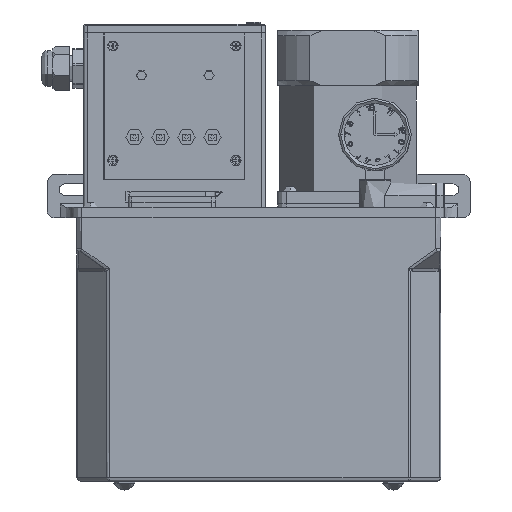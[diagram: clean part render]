
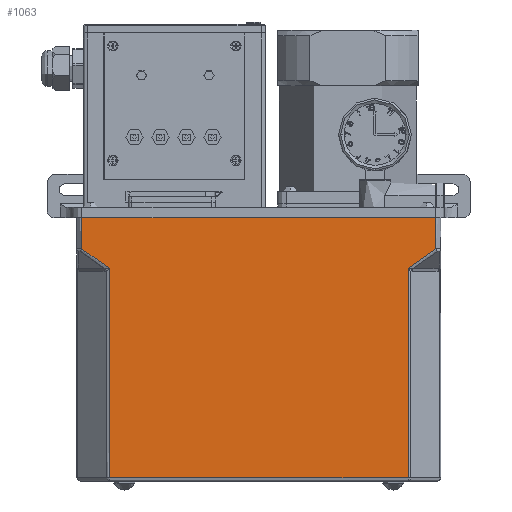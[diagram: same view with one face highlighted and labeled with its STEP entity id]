
A CAD part, front view. The second image highlights one B-rep face of the part: STEP entity #1063.
In plain terms, the highlighted planar face has unit normal (0, -1, 0).
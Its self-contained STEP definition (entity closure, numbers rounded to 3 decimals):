
#451 = CARTESIAN_POINT ( 'NONE',  ( -30.593, 42.029, 230.222 ) ) ;
#611 = CARTESIAN_POINT ( 'NONE',  ( 173.407, 42.029, 96.201 ) ) ;
#1063 = ADVANCED_FACE ( 'NONE', ( #25083 ), #18134, .T. ) ;
#2088 = CARTESIAN_POINT ( 'NONE',  ( 157.579, 42.029, 218.201 ) ) ;
#3996 = DIRECTION ( 'NONE',  ( 0., 0., -1. ) ) ;
#5134 = VERTEX_POINT ( 'NONE', #30601 ) ;
#5630 = CARTESIAN_POINT ( 'NONE',  ( 157.579, 42.029, 219.03 ) ) ;
#6933 = DIRECTION ( 'NONE',  ( 0., -1., 0. ) ) ;
#7159 = VECTOR ( 'NONE', #16314, 1000. ) ;
#7549 = VECTOR ( 'NONE', #21783, 1000. ) ;
#7614 = CARTESIAN_POINT ( 'NONE',  ( -30.593, 42.029, 250.201 ) ) ;
#7804 = VECTOR ( 'NONE', #36495, 1000. ) ;
#8895 = VERTEX_POINT ( 'NONE', #7614 ) ;
#9267 = ORIENTED_EDGE ( 'NONE', *, *, #19136, .F. ) ;
#9793 = VERTEX_POINT ( 'NONE', #10652 ) ;
#9909 = CARTESIAN_POINT ( 'NONE',  ( 173.407, 42.029, 230.222 ) ) ;
#10068 = EDGE_CURVE ( 'NONE', #12735, #32181, #30707, .T. ) ;
#10397 = ORIENTED_EDGE ( 'NONE', *, *, #29983, .T. ) ;
#10652 = CARTESIAN_POINT ( 'NONE',  ( -14.764, 42.029, 98.201 ) ) ;
#10807 = VERTEX_POINT ( 'NONE', #5630 ) ;
#10846 = CARTESIAN_POINT ( 'NONE',  ( -14.926, 42.029, 219.144 ) ) ;
#12256 = LINE ( 'NONE', #32044, #17125 ) ;
#12340 = CARTESIAN_POINT ( 'NONE',  ( -30.593, 42.029, 96.201 ) ) ;
#12735 = VERTEX_POINT ( 'NONE', #9909 ) ;
#12855 = LINE ( 'NONE', #24412, #7159 ) ;
#13025 = EDGE_CURVE ( 'NONE', #8895, #30185, #32782, .T. ) ;
#13183 = EDGE_CURVE ( 'NONE', #30185, #5134, #32748, .T. ) ;
#14539 = EDGE_CURVE ( 'NONE', #9793, #35625, #12855, .T. ) ;
#14755 = ORIENTED_EDGE ( 'NONE', *, *, #14539, .T. ) ;
#15295 = LINE ( 'NONE', #16809, #7804 ) ;
#15488 = EDGE_CURVE ( 'NONE', #35625, #10807, #18570, .T. ) ;
#15740 = VECTOR ( 'NONE', #23118, 1000. ) ;
#16061 = ORIENTED_EDGE ( 'NONE', *, *, #13025, .T. ) ;
#16314 = DIRECTION ( 'NONE',  ( 1., 0., 0. ) ) ;
#16809 = CARTESIAN_POINT ( 'NONE',  ( 172.741, 42.029, 229.751 ) ) ;
#17125 = VECTOR ( 'NONE', #34996, 1000. ) ;
#17613 = CARTESIAN_POINT ( 'NONE',  ( 157.579, 42.029, 98.201 ) ) ;
#17757 = VECTOR ( 'NONE', #36228, 1000. ) ;
#18002 = LINE ( 'NONE', #33012, #26328 ) ;
#18134 = PLANE ( 'NONE',  #35156 ) ;
#18570 = LINE ( 'NONE', #2088, #7549 ) ;
#19136 = EDGE_CURVE ( 'NONE', #8895, #32181, #12256, .T. ) ;
#21783 = DIRECTION ( 'NONE',  ( 0., 0., 1. ) ) ;
#23118 = DIRECTION ( 'NONE',  ( 0., 0., 1. ) ) ;
#23778 = CARTESIAN_POINT ( 'NONE',  ( -33.593, 42.029, 96.201 ) ) ;
#24412 = CARTESIAN_POINT ( 'NONE',  ( 158.407, 42.029, 98.201 ) ) ;
#25083 = FACE_OUTER_BOUND ( 'NONE', #32631, .T. ) ;
#26328 = VECTOR ( 'NONE', #35705, 1000. ) ;
#26422 = ORIENTED_EDGE ( 'NONE', *, *, #13183, .T. ) ;
#26603 = DIRECTION ( 'NONE',  ( 1., 0., 0. ) ) ;
#27947 = ORIENTED_EDGE ( 'NONE', *, *, #28088, .T. ) ;
#28088 = EDGE_CURVE ( 'NONE', #5134, #9793, #18002, .T. ) ;
#29983 = EDGE_CURVE ( 'NONE', #10807, #12735, #15295, .T. ) ;
#30185 = VERTEX_POINT ( 'NONE', #451 ) ;
#30601 = CARTESIAN_POINT ( 'NONE',  ( -14.764, 42.029, 219.03 ) ) ;
#30707 = LINE ( 'NONE', #611, #15740 ) ;
#30999 = VECTOR ( 'NONE', #3996, 1000. ) ;
#31473 = ORIENTED_EDGE ( 'NONE', *, *, #15488, .T. ) ;
#32044 = CARTESIAN_POINT ( 'NONE',  ( -33.593, 42.029, 250.201 ) ) ;
#32181 = VERTEX_POINT ( 'NONE', #34075 ) ;
#32631 = EDGE_LOOP ( 'NONE', ( #31473, #10397, #35076, #9267, #16061, #26422, #27947, #14755 ) ) ;
#32748 = LINE ( 'NONE', #10846, #17757 ) ;
#32782 = LINE ( 'NONE', #12340, #30999 ) ;
#33012 = CARTESIAN_POINT ( 'NONE',  ( -14.764, 42.029, 98.201 ) ) ;
#34075 = CARTESIAN_POINT ( 'NONE',  ( 173.407, 42.029, 250.201 ) ) ;
#34996 = DIRECTION ( 'NONE',  ( 1., 0., 0. ) ) ;
#35076 = ORIENTED_EDGE ( 'NONE', *, *, #10068, .T. ) ;
#35156 = AXIS2_PLACEMENT_3D ( 'NONE', #23778, #6933, #26603 ) ;
#35625 = VERTEX_POINT ( 'NONE', #17613 ) ;
#35705 = DIRECTION ( 'NONE',  ( 0., 0., -1. ) ) ;
#36228 = DIRECTION ( 'NONE',  ( 0.816, 0., -0.577 ) ) ;
#36495 = DIRECTION ( 'NONE',  ( 0.816, 0., 0.577 ) ) ;
